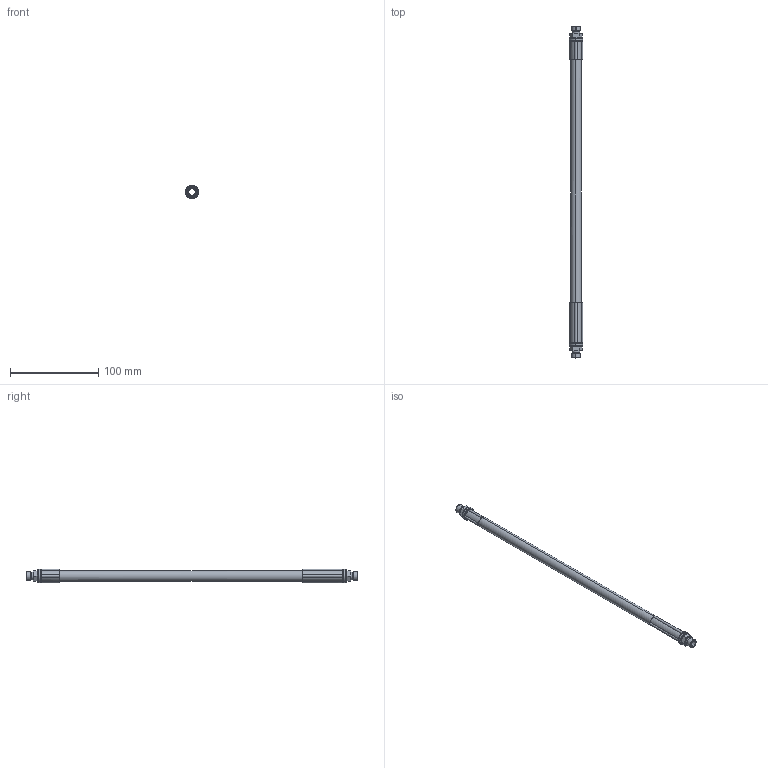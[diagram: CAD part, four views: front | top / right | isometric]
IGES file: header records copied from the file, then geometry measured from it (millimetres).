
Start section: SolidWorks IGES file using analytic representation for surfaces
Global section: file name: P:\SILVENT AB\ENGINEERING\Drawings\Övrigt\IGES\Silvent 864.IGS; native system: SolidWorks 2011; preprocessor: SolidWorks 2011; author: p.svensson; date: 130129.145552; units: millimetre
Bounding box: 15 x 376 x 15 mm (x, y, z)
Surface area: 23583.5 mm2 (no closed solid volume)
Topology: 0 solids, 0 shells, 139 faces, 1746 edges, 1738 vertices
Faces by surface type: revolution 74, bspline 65
